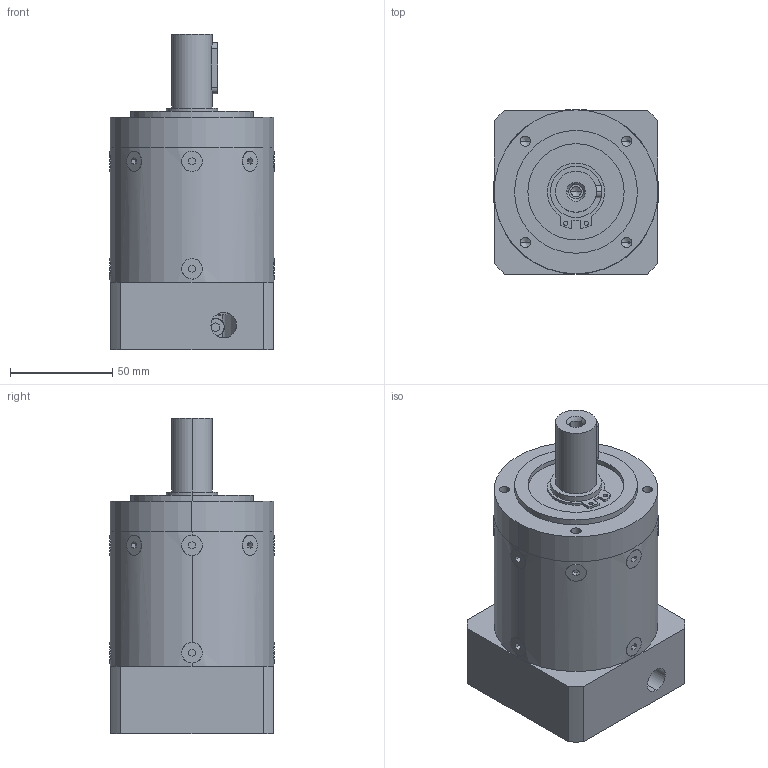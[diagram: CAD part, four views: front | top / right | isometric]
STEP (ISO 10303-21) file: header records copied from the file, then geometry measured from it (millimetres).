
FILE_DESCRIPTION (( 'STEP AP203' ), '1' );
FILE_NAME ('PLE080-L2-14-50-70.STEP', '2023-05-24T06:26:55', ( 'Windows User' ), ( 'P R C' ), 'SwSTEP 2.0', 'SolidWorks 2016', '' );
FILE_SCHEMA (( 'CONFIG_CONTROL_DESIGN' ));
Length unit declared in the file: millimetre
Products named in the file (8): 囀鞠褒蹟佪-M5℅20; PRF80 蟀諉啣-50-M5-70-LR37; 邧埴瑩 6x6x25; 粣創-6006 30x55x13; PLE080-L2-14-50-70; PRL80 奻屳唳; PRF80 薊粣ん-14_D7-19 梓袧; PRF80 内齿圈-B版_二级内齿圈
Assembly tree (7 placements, depth 2):
  PLE080-L2-14-50-70
    PRL80 奻屳唳
    PRF80 薊粣ん-14_D7-19 梓袧
    PRF80 内齿圈-B版_二级内齿圈
    囀鞠褒蹟佪-M5℅20
    PRF80 蟀諉啣-50-M5-70-LR37
    邧埴瑩 6x6x25
    粣創-6006 30x55x13
Bounding box: 80.1 x 80.1 x 154 mm (x, y, z)
Volume: 578577 mm3; surface area: 112740.3 mm2
Topology: 8 solids, 8 shells, 981 faces, 2677 edges, 1755 vertices
Faces by surface type: plane 527, bspline 250, cylinder 172, cone 32
Entity records: 41677 total; most frequent: CARTESIAN_POINT 17689, ORIENTED_EDGE 5302, DIRECTION 3984, EDGE_CURVE 2651, VERTEX_POINT 1755, LINE 1498, VECTOR 1498, AXIS2_PLACEMENT_3D 1243
